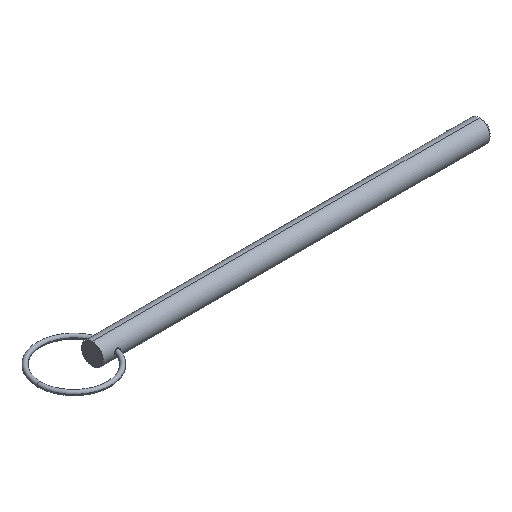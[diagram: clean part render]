
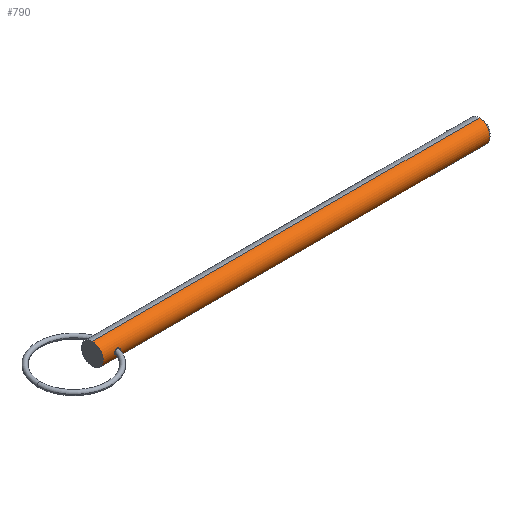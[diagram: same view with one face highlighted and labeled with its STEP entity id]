
A CAD part, isometric view. The second image highlights one B-rep face of the part: STEP entity #790.
In plain terms, the highlighted cylindrical face has radius 3.97 mm (diameter 7.94 mm), a partial arc.
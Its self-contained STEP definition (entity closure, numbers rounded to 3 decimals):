
#35 = CARTESIAN_POINT ( 'NONE',  ( 6.35, -3.97, 0. ) ) ;
#46 = CARTESIAN_POINT ( 'NONE',  ( 6.35, -3.97, 0.134 ) ) ;
#48 = CARTESIAN_POINT ( 'NONE',  ( 141.888, 0., 0. ) ) ;
#93 = EDGE_CURVE ( 'NONE', #618, #837, #533, .T. ) ;
#98 = CARTESIAN_POINT ( 'NONE',  ( 5.052, -3.846, -0.984 ) ) ;
#106 = CARTESIAN_POINT ( 'NONE',  ( 4.492, -3.923, 0.614 ) ) ;
#107 = FACE_BOUND ( 'NONE', #521, .T. ) ;
#109 = CARTESIAN_POINT ( 'NONE',  ( 4.26, -3.97, 0.134 ) ) ;
#110 = CARTESIAN_POINT ( 'NONE',  ( 141.888, 0., 3.97 ) ) ;
#112 = CARTESIAN_POINT ( 'NONE',  ( 5.953, -3.888, 0.81 ) ) ;
#117 = CARTESIAN_POINT ( 'NONE',  ( 5.587, -3.849, 0.975 ) ) ;
#118 = CARTESIAN_POINT ( 'NONE',  ( 6.35, -3.97, 0. ) ) ;
#120 = AXIS2_PLACEMENT_3D ( 'NONE', #823, #446, #565 ) ;
#121 = CARTESIAN_POINT ( 'NONE',  ( 6.221, -3.939, -0.514 ) ) ;
#155 = CARTESIAN_POINT ( 'NONE',  ( 4.26, -3.97, 0. ) ) ;
#156 = ORIENTED_EDGE ( 'NONE', *, *, #247, .F. ) ;
#172 = DIRECTION ( 'NONE',  ( 1., 0., 0. ) ) ;
#176 = AXIS2_PLACEMENT_3D ( 'NONE', #48, #172, #809 ) ;
#177 = CARTESIAN_POINT ( 'NONE',  ( 5.185, -3.845, 0.988 ) ) ;
#189 = CARTESIAN_POINT ( 'NONE',  ( 5.452, -3.843, -0.996 ) ) ;
#191 = CARTESIAN_POINT ( 'NONE',  ( 6.35, -3.97, -0.133 ) ) ;
#195 = CARTESIAN_POINT ( 'NONE',  ( 0., 0., -3.97 ) ) ;
#214 = EDGE_CURVE ( 'NONE', #837, #618, #234, .T. ) ;
#222 = CARTESIAN_POINT ( 'NONE',  ( 0., 0., 0. ) ) ;
#230 = EDGE_LOOP ( 'NONE', ( #714, #643, #614, #156 ) ) ;
#234 = B_SPLINE_CURVE_WITH_KNOTS ( 'NONE', 3,
 ( #35, #191, #701, #121, #386, #568, #745, #835, #189, #98, #460, #815, #824, #767, #265, #699 ),
 .UNSPECIFIED., .F., .F.,
 ( 4, 2, 2, 2, 2, 2, 2, 4 ),
 ( 0.004, 0.004, 0.005, 0.005, 0.005, 0.006, 0.007, 0.007 ),
 .UNSPECIFIED. ) ;
#247 = EDGE_CURVE ( 'NONE', #763, #776, #259, .T. ) ;
#253 = EDGE_CURVE ( 'NONE', #469, #763, #498, .T. ) ;
#259 = CIRCLE ( 'NONE', #176, 3.97 ) ;
#265 = CARTESIAN_POINT ( 'NONE',  ( 4.26, -3.97, -0.134 ) ) ;
#298 = DIRECTION ( 'NONE',  ( 0., 0., -1. ) ) ;
#316 = FACE_OUTER_BOUND ( 'NONE', #230, .T. ) ;
#317 = EDGE_CURVE ( 'NONE', #511, #776, #574, .T. ) ;
#321 = DIRECTION ( 'NONE',  ( 1., 0., 0. ) ) ;
#329 = CYLINDRICAL_SURFACE ( 'NONE', #120, 3.97 ) ;
#345 = CARTESIAN_POINT ( 'NONE',  ( 5.055, -3.852, 0.961 ) ) ;
#347 = VECTOR ( 'NONE', #321, 1000. ) ;
#373 = CARTESIAN_POINT ( 'NONE',  ( 4.408, -3.939, 0.507 ) ) ;
#382 = CARTESIAN_POINT ( 'NONE',  ( 5.455, -3.843, 0.996 ) ) ;
#384 = CARTESIAN_POINT ( 'NONE',  ( 141.888, 0., -3.97 ) ) ;
#385 = CARTESIAN_POINT ( 'NONE',  ( 6.323, -3.963, 0.268 ) ) ;
#386 = CARTESIAN_POINT ( 'NONE',  ( 6.145, -3.922, -0.626 ) ) ;
#391 = CARTESIAN_POINT ( 'NONE',  ( 5.839, -3.871, 0.882 ) ) ;
#445 = CARTESIAN_POINT ( 'NONE',  ( 4.292, -3.963, 0.268 ) ) ;
#446 = DIRECTION ( 'NONE',  ( 1., 0., 0. ) ) ;
#460 = CARTESIAN_POINT ( 'NONE',  ( 4.788, -3.876, -0.879 ) ) ;
#463 = DIRECTION ( 'NONE',  ( 1., 0., 0. ) ) ;
#469 = VERTEX_POINT ( 'NONE', #727 ) ;
#498 = LINE ( 'NONE', #751, #347 ) ;
#511 = VERTEX_POINT ( 'NONE', #604 ) ;
#521 = EDGE_LOOP ( 'NONE', ( #773, #600 ) ) ;
#533 = B_SPLINE_CURVE_WITH_KNOTS ( 'NONE', 3,
 ( #768, #109, #445, #373, #106, #556, #713, #345, #177, #382, #117, #391, #112, #717, #834, #385, #46, #758 ),
 .UNSPECIFIED., .F., .F.,
 ( 4, 2, 2, 2, 2, 2, 2, 2, 4 ),
 ( 0.001, 0.001, 0.001, 0.002, 0.002, 0.003, 0.003, 0.003, 0.004 ),
 .UNSPECIFIED. ) ;
#556 = CARTESIAN_POINT ( 'NONE',  ( 4.691, -3.891, 0.792 ) ) ;
#565 = DIRECTION ( 'NONE',  ( 0., 0., -1. ) ) ;
#568 = CARTESIAN_POINT ( 'NONE',  ( 5.952, -3.887, -0.811 ) ) ;
#574 = LINE ( 'NONE', #195, #778 ) ;
#600 = ORIENTED_EDGE ( 'NONE', *, *, #214, .T. ) ;
#604 = CARTESIAN_POINT ( 'NONE',  ( 0., 0., -3.97 ) ) ;
#607 = EDGE_CURVE ( 'NONE', #469, #511, #754, .T. ) ;
#609 = DIRECTION ( 'NONE',  ( 1., 0., 0. ) ) ;
#614 = ORIENTED_EDGE ( 'NONE', *, *, #317, .T. ) ;
#618 = VERTEX_POINT ( 'NONE', #155 ) ;
#643 = ORIENTED_EDGE ( 'NONE', *, *, #607, .T. ) ;
#699 = CARTESIAN_POINT ( 'NONE',  ( 4.26, -3.97, 0. ) ) ;
#701 = CARTESIAN_POINT ( 'NONE',  ( 6.324, -3.963, -0.267 ) ) ;
#713 = CARTESIAN_POINT ( 'NONE',  ( 4.805, -3.876, 0.862 ) ) ;
#714 = ORIENTED_EDGE ( 'NONE', *, *, #253, .F. ) ;
#717 = CARTESIAN_POINT ( 'NONE',  ( 6.144, -3.921, 0.626 ) ) ;
#727 = CARTESIAN_POINT ( 'NONE',  ( 0., 0., 3.97 ) ) ;
#738 = AXIS2_PLACEMENT_3D ( 'NONE', #222, #609, #298 ) ;
#745 = CARTESIAN_POINT ( 'NONE',  ( 5.837, -3.871, -0.882 ) ) ;
#751 = CARTESIAN_POINT ( 'NONE',  ( 0., 0., 3.97 ) ) ;
#754 = CIRCLE ( 'NONE', #738, 3.97 ) ;
#758 = CARTESIAN_POINT ( 'NONE',  ( 6.35, -3.97, 0. ) ) ;
#763 = VERTEX_POINT ( 'NONE', #110 ) ;
#767 = CARTESIAN_POINT ( 'NONE',  ( 4.291, -3.963, -0.267 ) ) ;
#768 = CARTESIAN_POINT ( 'NONE',  ( 4.26, -3.97, 0. ) ) ;
#773 = ORIENTED_EDGE ( 'NONE', *, *, #93, .T. ) ;
#776 = VERTEX_POINT ( 'NONE', #384 ) ;
#778 = VECTOR ( 'NONE', #463, 1000. ) ;
#790 = ADVANCED_FACE ( 'NONE', ( #316, #107 ), #329, .T. ) ;
#809 = DIRECTION ( 'NONE',  ( 0., 0., -1. ) ) ;
#815 = CARTESIAN_POINT ( 'NONE',  ( 4.492, -3.923, -0.614 ) ) ;
#823 = CARTESIAN_POINT ( 'NONE',  ( 0., 0., 0. ) ) ;
#824 = CARTESIAN_POINT ( 'NONE',  ( 4.408, -3.939, -0.508 ) ) ;
#834 = CARTESIAN_POINT ( 'NONE',  ( 6.221, -3.939, 0.513 ) ) ;
#835 = CARTESIAN_POINT ( 'NONE',  ( 5.587, -3.849, -0.975 ) ) ;
#837 = VERTEX_POINT ( 'NONE', #118 ) ;
